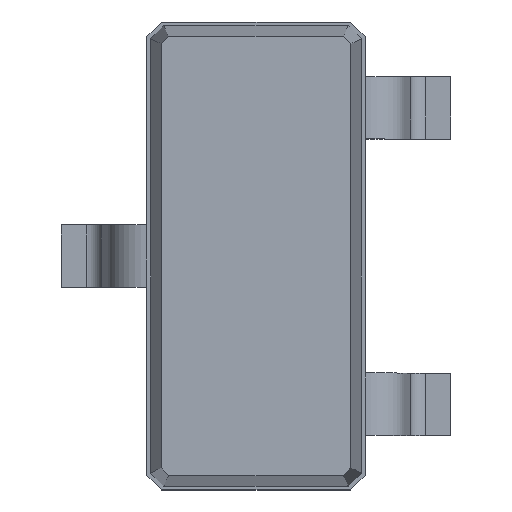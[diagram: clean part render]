
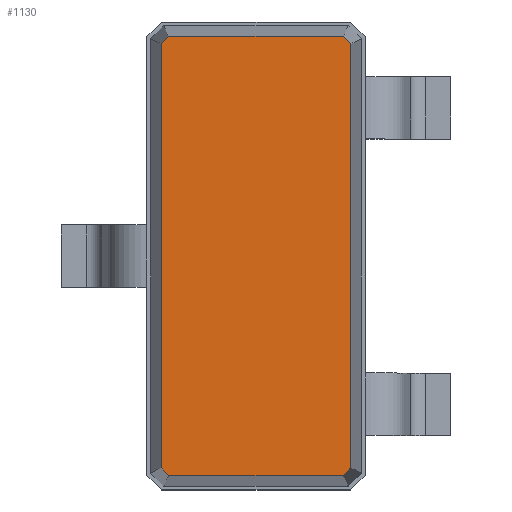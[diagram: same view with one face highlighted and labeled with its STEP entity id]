
A CAD part, top view. The second image highlights one B-rep face of the part: STEP entity #1130.
In plain terms, the highlighted planar face has unit normal (0, 0, 1).
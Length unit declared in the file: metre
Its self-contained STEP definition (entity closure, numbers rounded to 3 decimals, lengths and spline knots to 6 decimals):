
#55=PLANE('',#1391);
#138=LINE('',#1879,#274);
#143=LINE('',#1894,#279);
#145=LINE('',#1897,#281);
#148=LINE('',#1903,#284);
#149=LINE('',#1906,#285);
#150=LINE('',#1908,#286);
#151=LINE('',#1909,#287);
#152=LINE('',#1911,#288);
#274=VECTOR('',#1556,1.);
#279=VECTOR('',#1569,1.);
#281=VECTOR('',#1573,1.);
#284=VECTOR('',#1578,1.);
#285=VECTOR('',#1579,1.);
#286=VECTOR('',#1580,1.);
#287=VECTOR('',#1581,1.);
#288=VECTOR('',#1582,1.);
#455=ORIENTED_EDGE('',*,*,#756,.F.);
#456=ORIENTED_EDGE('',*,*,#757,.F.);
#457=ORIENTED_EDGE('',*,*,#758,.F.);
#458=ORIENTED_EDGE('',*,*,#753,.F.);
#459=ORIENTED_EDGE('',*,*,#744,.F.);
#460=ORIENTED_EDGE('',*,*,#751,.F.);
#461=ORIENTED_EDGE('',*,*,#759,.F.);
#462=ORIENTED_EDGE('',*,*,#760,.F.);
#744=EDGE_CURVE('',#888,#889,#138,.T.);
#751=EDGE_CURVE('',#894,#888,#143,.T.);
#753=EDGE_CURVE('',#889,#895,#145,.T.);
#756=EDGE_CURVE('',#897,#898,#148,.T.);
#757=EDGE_CURVE('',#899,#897,#149,.T.);
#758=EDGE_CURVE('',#895,#899,#150,.T.);
#759=EDGE_CURVE('',#900,#894,#151,.T.);
#760=EDGE_CURVE('',#898,#900,#152,.T.);
#888=VERTEX_POINT('',#1878);
#889=VERTEX_POINT('',#1880);
#894=VERTEX_POINT('',#1893);
#895=VERTEX_POINT('',#1898);
#897=VERTEX_POINT('',#1904);
#898=VERTEX_POINT('',#1905);
#899=VERTEX_POINT('',#1907);
#900=VERTEX_POINT('',#1910);
#990=EDGE_LOOP('',(#455,#456,#457,#458,#459,#460,#461,#462));
#1054=FACE_BOUND('',#990,.T.);
#1130=ADVANCED_FACE('',(#1054),#55,.T.);
#1391=AXIS2_PLACEMENT_3D('',#1902,#1576,#1577);
#1556=DIRECTION('',(1.,0.,0.));
#1569=DIRECTION('',(0.707,0.707,0.));
#1573=DIRECTION('',(0.707,-0.707,0.));
#1576=DIRECTION('',(0.,0.,1.));
#1577=DIRECTION('',(-0.369,0.929,0.));
#1578=DIRECTION('',(-1.,0.,0.));
#1579=DIRECTION('',(-0.707,-0.707,0.));
#1580=DIRECTION('',(0.,-1.,0.));
#1581=DIRECTION('',(0.,1.,0.));
#1582=DIRECTION('',(-0.707,0.707,0.));
#1878=CARTESIAN_POINT('',(0.147541,-0.126592,0.002795));
#1879=CARTESIAN_POINT('',(0.147541,-0.126592,0.002795));
#1880=CARTESIAN_POINT('',(0.148659,-0.126592,0.002795));
#1893=CARTESIAN_POINT('',(0.147492,-0.126641,0.002795));
#1894=CARTESIAN_POINT('',(0.147492,-0.126641,0.002795));
#1897=CARTESIAN_POINT('',(0.148659,-0.126592,0.002795));
#1898=CARTESIAN_POINT('',(0.148708,-0.126641,0.002795));
#1902=CARTESIAN_POINT('',(0.148659,-0.129408,0.002795));
#1903=CARTESIAN_POINT('',(0.148659,-0.129408,0.002795));
#1904=CARTESIAN_POINT('',(0.148659,-0.129408,0.002795));
#1905=CARTESIAN_POINT('',(0.147541,-0.129408,0.002795));
#1906=CARTESIAN_POINT('',(0.148708,-0.129359,0.002795));
#1907=CARTESIAN_POINT('',(0.148708,-0.129359,0.002795));
#1908=CARTESIAN_POINT('',(0.148708,-0.126641,0.002795));
#1909=CARTESIAN_POINT('',(0.147492,-0.129359,0.002795));
#1910=CARTESIAN_POINT('',(0.147492,-0.129359,0.002795));
#1911=CARTESIAN_POINT('',(0.147541,-0.129408,0.002795));
